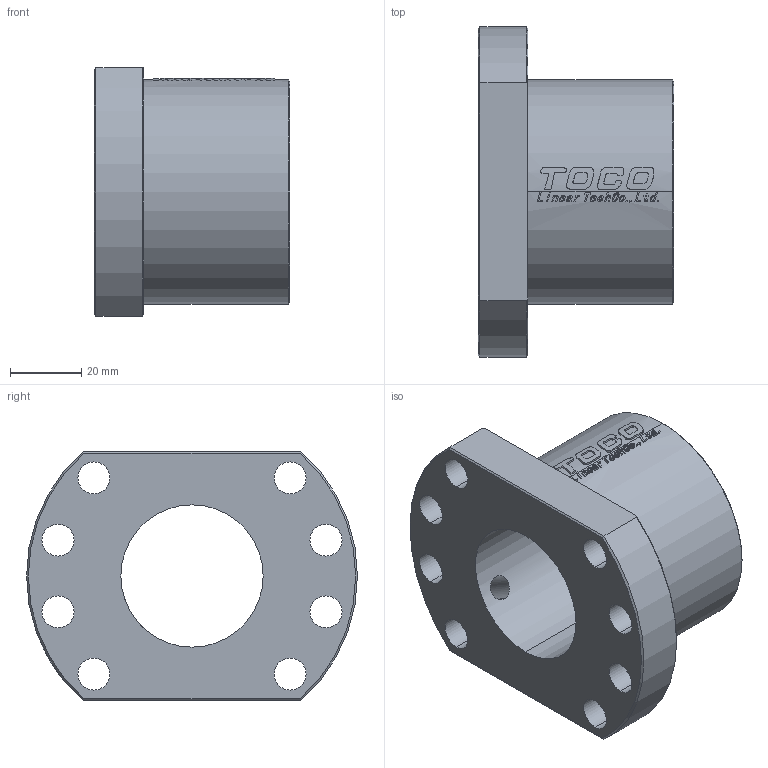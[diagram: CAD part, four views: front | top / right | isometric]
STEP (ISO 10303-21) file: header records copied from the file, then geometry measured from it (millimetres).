
FILE_DESCRIPTION (( 'STEP AP214' ), '1' );
FILE_NAME ('7.3110 STNUR4005T4D.STEP', '2026-03-03T11:49:24', ( '' ), ( '' ), 'SwSTEP 2.0', 'SolidWorks 2025', '' );
FILE_SCHEMA (( 'AUTOMOTIVE_DESIGN' ));
Length unit declared in the file: millimetre
Products named in the file (1): 7.3110 STNUR4005T4D
Bounding box: 55 x 93 x 70 mm (x, y, z)
Volume: 132172.6 mm3; surface area: 30677 mm2
Topology: 1 solids, 1 shells, 571 faces, 1606 edges, 1068 vertices
Faces by surface type: bspline 425, plane 86, cylinder 54, cone 6
Entity records: 28061 total; most frequent: CARTESIAN_POINT 16031, ORIENTED_EDGE 3212, EDGE_CURVE 1606, DIRECTION 1170, VERTEX_POINT 1068, B_SPLINE_CURVE_WITH_KNOTS 798, LINE 740, VECTOR 740
